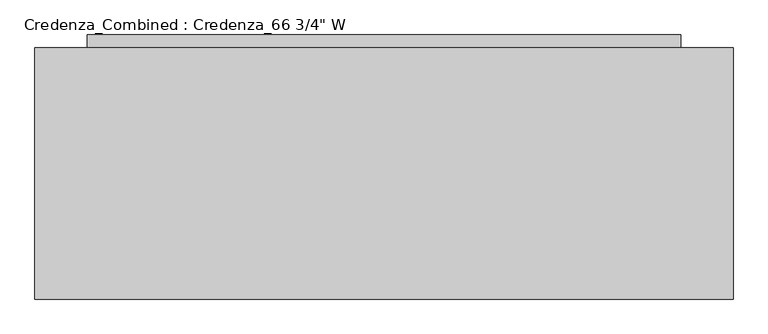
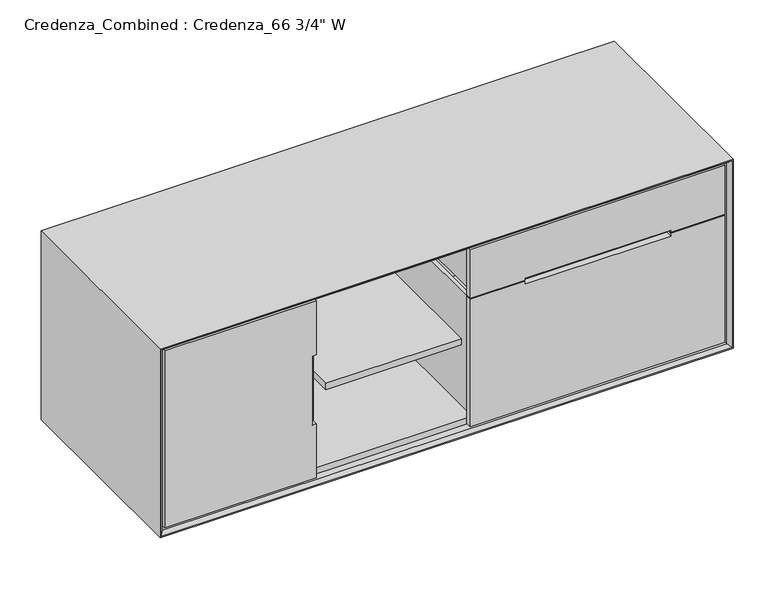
"""IFC4 building model written with IfcOpenShell, lengths in millimetres: furniture geometry."""

from ifc_helpers import new_model, si_unit, frame, origin, origin_with_axes, place, context, project, spatial, polyline, outline, extrude, faceted_brep, source, transform, mapped, element, save


def furniture_0a99ca76(model_context):
    return source(origin(), model_context, "Body", "SolidModel", [
        faceted_brep([(1658.9375, 609.6, 478.63125), (941.3875, 609.6, 478.63125), (941.3875, 28.575, 478.63125), (1658.9375, 28.575, 478.63125), (954.0875, 596.9, 478.63125), (1644.65, 596.9, 478.63125), (1644.65, 41.275, 478.63125), (954.0875, 41.275, 478.63125), (1658.9375, 609.6, 105.56875), (941.3875, 609.6, 105.56875), (941.3875, 28.575, 105.56875), (1658.9375, 28.575, 105.56875), (954.0875, 596.9, 118.26875), (1644.65, 596.9, 118.26875), (1644.65, 41.275, 118.26875), (954.0875, 41.275, 118.26875)], [[[0, 1, 2, 3], [4, 5, 6, 7]], [[1, 0, 8, 9]], [[2, 1, 9, 10]], [[3, 2, 10, 11]], [[8, 0, 3, 11]], [[5, 4, 12, 13]], [[6, 5, 13, 14]], [[7, 6, 14, 15]], [[4, 7, 15, 12]], [[13, 12, 15, 14]], [[8, 11, 10, 9]]]),
        faceted_brep([(1644.65, 596.9, 519.90625), (954.0875, 596.9, 519.90625), (954.0875, 41.275, 519.90625), (1644.65, 41.275, 519.90625), (1658.9375, 609.6, 507.20625), (1658.9375, 28.575, 507.20625), (941.3875, 28.575, 507.20625), (941.3875, 609.6, 507.20625), (941.3875, 609.6, 634.20625), (1658.9375, 609.6, 634.20625), (941.3875, 28.575, 634.20625), (1658.9375, 28.575, 634.20625), (954.0875, 596.9, 634.20625), (1644.65, 596.9, 634.20625), (1644.65, 41.275, 634.20625), (954.0875, 41.275, 634.20625)], [[[0, 1, 2, 3]], [[4, 5, 6, 7]], [[4, 7, 8, 9]], [[8, 7, 6, 10]], [[10, 6, 5, 11]], [[11, 5, 4, 9]], [[9, 8, 10, 11], [12, 13, 14, 15]], [[13, 12, 1, 0]], [[14, 13, 0, 3]], [[15, 14, 3, 2]], [[12, 15, 2, 1]]]),
        extrude(outline(polyline([(504.03125, 923.925), (105.56875, 923.925), (105.56875, 1676.4), (504.03125, 1676.4), (504.03125, 1516.0625), (494.7030946, 1516.0625), (494.7030946, 1084.2625), (504.03125, 1084.2625), (504.03125, 923.925)])), frame((0.0, 9.525, 0.0), z_axis=(0.0, 1.0, 0.0), x_axis=(0.0, 0.0, 1.0)), (0.0, 0.0, 1.0), 19.05),
        extrude(outline(polyline([(659.60625, 1676.4), (659.60625, 923.925), (507.20625, 923.925), (507.20625, 1084.2625), (513.3594054, 1084.2625), (513.3594054, 1516.0625), (507.20625, 1516.0625), (507.20625, 1676.4), (659.60625, 1676.4)])), frame((0.0, 9.525, 0.0), z_axis=(0.0, 1.0, 0.0), x_axis=(0.0, 0.0, 1.0)), (0.0, 0.0, 1.0), 19.05),
        extrude(outline(polyline([(896.14375, 609.6), (896.14375, 9.525), (496.09375, 9.525), (496.09375, 609.6), (896.14375, 609.6)])), frame((0.0, 0.0, 371.475), z_axis=(0.0, 0.0, 1.0), x_axis=(1.0, 0.0, 0.0)), (0.0, 0.0, 1.0), 19.05),
        extrude(outline(polyline([(1568.45, 609.6), (1568.45, 241.3), (127.0, 241.3), (127.0, 609.6), (1568.45, 609.6)])), origin_with_axes(), (0.0, 0.0, 1.0), 87.3125),
        extrude(outline(polyline([(1568.45, 641.35), (1568.45, 609.6), (127.0, 609.6), (127.0, 641.35), (1568.45, 641.35)])), origin_with_axes(), (0.0, 0.0, 1.0), 647.7),
        extrude(outline(polyline([(665.1625, 1682.75), (665.1625, 12.7), (100.0125, 12.7), (100.0125, 1682.75), (665.1625, 1682.75)]), holes=[polyline([(646.1125, 31.75), (646.1125, 1663.7), (119.0625, 1663.7), (119.0625, 31.75), (646.1125, 31.75)])]), frame((0.0, 31.75, 0.0), z_axis=(0.0, 1.0, 0.0), x_axis=(0.0, 0.0, 1.0)), (0.0, 0.0, 1.0), 577.85),
        faceted_brep([(1682.75, 9.525, 665.1625), (1682.75, 609.6, 665.1625), (1682.75, 609.6, 100.0125), (1682.75, 9.525, 100.0125), (1692.275, 0.0, 674.6875), (1692.275, 0.0, 90.4875), (1695.45, 609.6, 677.8625), (1695.45, 0.0, 677.8625), (1695.45, 0.0, 87.3125), (1695.45, 609.6, 87.3125), (12.7, 609.6, 100.0125), (12.7, 9.525, 100.0125), (3.175, 0.0, 90.4875), (0.0, 0.0, 87.3125), (0.0, 609.6, 87.3125), (12.7, 609.6, 665.1625), (12.7, 9.525, 665.1625), (3.175, 0.0, 674.6875), (0.0, 0.0, 677.8625), (0.0, 609.6, 677.8625)], [[[0, 1, 2, 3]], [[4, 0, 3, 5]], [[6, 7, 8, 9]], [[3, 2, 10, 11]], [[5, 3, 11, 12]], [[9, 8, 13, 14]], [[11, 10, 15, 16]], [[12, 11, 16, 17]], [[14, 13, 18, 19]], [[9, 14, 19, 6], [1, 15, 10, 2]], [[16, 15, 1, 0]], [[17, 16, 0, 4]], [[7, 18, 13, 8], [5, 12, 17, 4]], [[19, 18, 7, 6]]]),
        faceted_brep([(468.3125, 28.575, 659.60625), (19.05, 28.575, 659.60625), (19.05, 9.525, 659.60625), (468.3125, 9.525, 659.60625), (468.3125, 28.575, 105.56875), (468.3125, 9.525, 105.56875), (19.05, 9.525, 105.56875), (19.05, 28.575, 105.56875), (468.3125, 9.525, 274.6375), (455.6125, 9.525, 274.6375), (455.6125, 9.525, 490.5375), (468.3125, 9.525, 490.5375), (468.3125, 25.4, 490.5375), (468.3125, 25.4, 274.6375), (455.6125, 25.4, 490.5375), (455.6125, 25.4, 274.6375)], [[[0, 1, 2, 3]], [[4, 5, 6, 7]], [[1, 0, 4, 7]], [[2, 1, 7, 6]], [[3, 2, 6, 5, 8, 9, 10, 11]], [[0, 3, 11, 12, 13, 8, 5, 4]], [[12, 14, 15, 13]], [[14, 12, 11, 10]], [[15, 14, 10, 9]], [[13, 15, 9, 8]]]),
        extrude(outline(polyline([(468.3125, 609.6), (468.3125, 28.575), (19.05, 28.575), (19.05, 609.6), (468.3125, 609.6)])), frame((0.0, 0.0, 382.5875), z_axis=(0.0, 0.0, 1.0), x_axis=(1.0, 0.0, 0.0)), (0.0, 0.0, 1.0), 19.05),
    ])


if __name__ == "__main__":
    model = new_model("IFC4")
    model_context = context("Model", 3, world=origin())
    ifc_project = project(units=[si_unit("LENGTHUNIT", "METRE", prefix="MILLI")], contexts=[model_context])
    site = spatial("IfcSite", under=ifc_project)
    building = spatial("IfcBuilding", under=site)
    placement = place(None, origin())
    furniture_shape = furniture_0a99ca76(model_context)
    element("IfcFurniture", 1, ObjectType="Credenza_Combined : Credenza_66 3/4\" W", at=placement, inside=building, context=model_context, shape_type="MappedRepresentation", body=[
        mapped(furniture_shape, transform((0.0, 0.0, 0.0), x_axis=(1.0, 0.0, 0.0), y_axis=(0.0, 1.0, 0.0), z_axis=(0.0, 0.0, 1.0))),
    ])
    save(model, "model.ifc")
